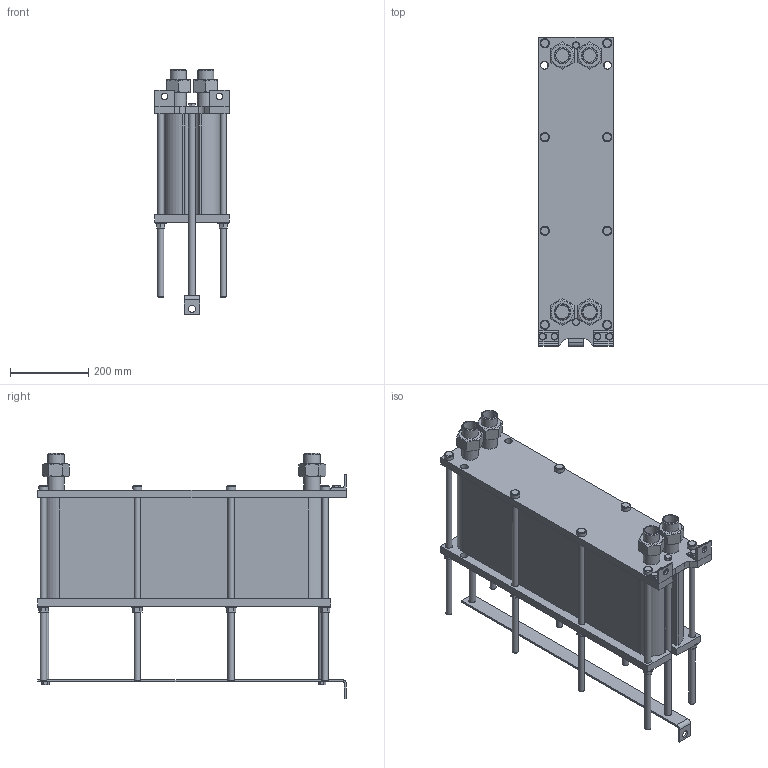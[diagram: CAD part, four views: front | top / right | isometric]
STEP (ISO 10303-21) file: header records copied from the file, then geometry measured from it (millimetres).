
FILE_DESCRIPTION(/* description */ (''),/* implementation_level */ '2;1');
FILE_NAME(/* name */ 'C:\Users\zhuro\Desktop\ENCO\TO\ЭН-008\ЭН-0,5-008-83-1.stp',/* time_stamp */ '2022-06-06T10:52:55+03:00',/* author */ ('zhuro'),/* organization */ (''),/* preprocessor_version */ 'ST-DEVELOPER v18.1',/* originating_system */ 'Autodesk Inventor 2022',/* authorisation */ '');
FILE_SCHEMA (('AUTOMOTIVE_DESIGN { 1 0 10303 214 3 1 1 }'));
Length unit declared in the file: millimetre
Products named in the file (1): ЭН-0,5-008-83-1
Bounding box: 190 x 790 x 627.4 mm (x, y, z)
Volume: 33127459.2 mm3; surface area: 1877724.7 mm2
Topology: 40 solids, 40 shells, 428 faces, 924 edges, 606 vertices
Faces by surface type: plane 273, cylinder 109, cone 40, torus 6
Full cylindrical faces by diameter (mm): 12 x6, 14 x2, 16 x20, 17 x8, 18 x19, 20 x5, 24 x8, 28 x8, 34.3 x8, 42.3 x8
Entity records: 15843 total; most frequent: CARTESIAN_POINT 5991, DIRECTION 1984, ORIENTED_EDGE 1848, EDGE_CURVE 924, AXIS2_PLACEMENT_3D 715, VERTEX_POINT 606, LINE 554, VECTOR 554
